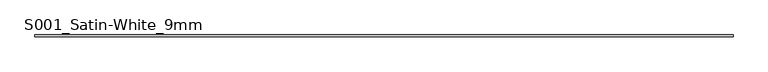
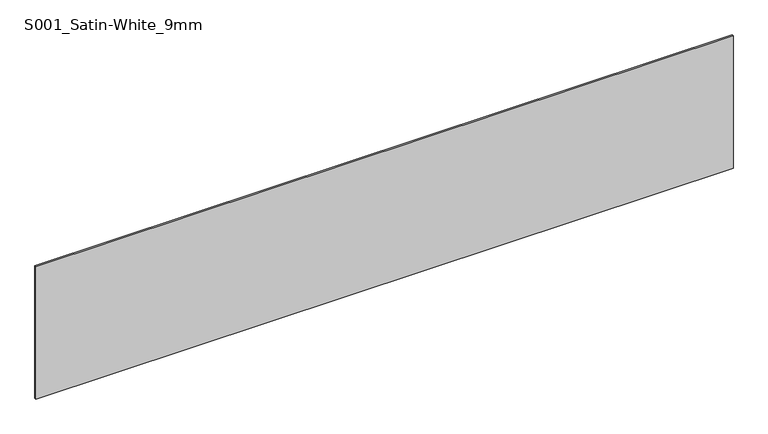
"""IFC4 building model written with IfcOpenShell, lengths in millimetres: plate geometry, Curtain-Panels_Outdoor-Material_HI-MACS_Solids : S001_Satin-White_9mm."""

from ifc_helpers import new_model, si_unit, origin, origin_with_axes, place, context, project, spatial, polyline, outline, extrude, source, transform, mapped, element, save


def s001_satin_white_9mm_1b0dd940(model_context):
    return source(origin(), model_context, "Body", "SweptSolid", [
        extrude(outline(polyline([(1840.0, 4.5), (1840.0, -4.5), (-1840.0, -4.5), (-1840.0, 4.5), (1840.0, 4.5)])), origin_with_axes(), (0.0, 0.0, 1.0), 738.1288393),
    ])


if __name__ == "__main__":
    model = new_model("IFC4")
    model_context = context("Model", 3, world=origin())
    ifc_project = project(units=[si_unit("LENGTHUNIT", "METRE", prefix="MILLI")], contexts=[model_context])
    site = spatial("IfcSite", under=ifc_project)
    building = spatial("IfcBuilding", under=site)
    placement = place(None, origin())
    s001_satin_white_9mm_shape = s001_satin_white_9mm_1b0dd940(model_context)
    element("IfcPlate", 1, ObjectType="Curtain-Panels_Outdoor-Material_HI-MACS_Solids : S001_Satin-White_9mm", at=placement, inside=building, context=model_context, shape_type="MappedRepresentation", body=[
        mapped(s001_satin_white_9mm_shape, transform((0.0, 0.0, 0.0), x_axis=(1.0, 0.0, 0.0), y_axis=(0.0, 1.0, 0.0), z_axis=(0.0, 0.0, 1.0))),
    ])
    save(model, "model.ifc")
